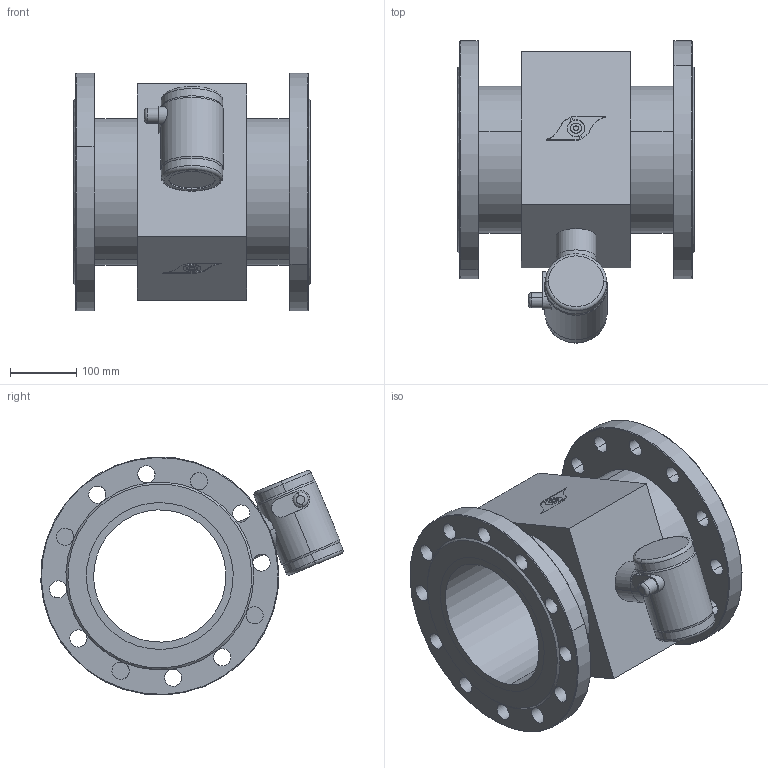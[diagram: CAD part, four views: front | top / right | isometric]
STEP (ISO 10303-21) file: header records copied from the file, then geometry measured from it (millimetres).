
FILE_DESCRIPTION (( 'STEP AP203' ), '1' );
FILE_NAME ('Ïèòåðôëîó ÐÑ200 äëÿ ñàéòà.STEP', '2015-11-03T10:19:49', ( '' ), ( '' ), 'SwSTEP 2.0', 'SolidWorks 2015', '' );
FILE_SCHEMA (( 'CONFIG_CONTROL_DESIGN' ));
Length unit declared in the file: millimetre
Products named in the file (8): 婑鳧氀 襞旂 12820-80; Äåòàëü3^Ïèòåðôëîó ÐÑ200; 鏝鋋瘔; 婑鳧氀 襞旂 12820-80_200-25; Ïèòåðôëîó ÐÑ200 äëÿ ñàéòà
Assembly tree (4 placements, depth 2):
  婑鳧氀 襞旂 12820-80
  Äåòàëü3^Ïèòåðôëîó ÐÑ200
  鏝鋋瘔
  Ïèòåðôëîó ÐÑ200 äëÿ ñàéòà
    婑鳧氀 襞旂 12820-80_200-25  x2
    Äåòàëü3^Ïèòåðôëîó ÐÑ200
    鏝鋋瘔
  婑鳧氀 襞旂 12820-80
Bounding box: 358 x 456.98 x 359.66 mm (x, y, z)
Volume: 11073175.9 mm3; surface area: 1047163.2 mm2
Topology: 4 solids, 4 shells, 169 faces, 461 edges, 292 vertices
Faces by surface type: cylinder 92, plane 47, cone 16, bspline 8, torus 6
Entity records: 5121 total; most frequent: CARTESIAN_POINT 1023, DIRECTION 755, ORIENTED_EDGE 678, EDGE_CURVE 339, AXIS2_PLACEMENT_3D 304, VERTEX_POINT 216, CIRCLE 172, EDGE_LOOP 163
